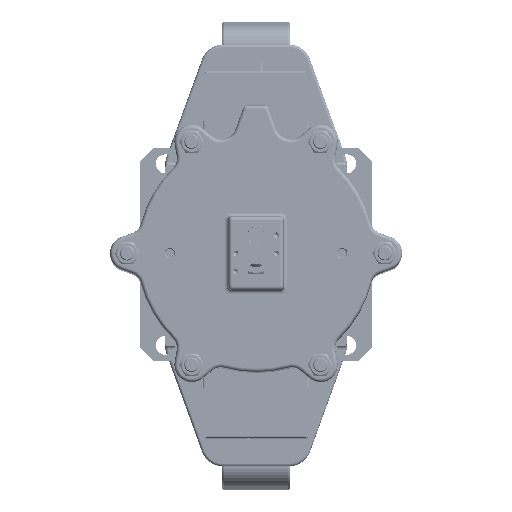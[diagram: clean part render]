
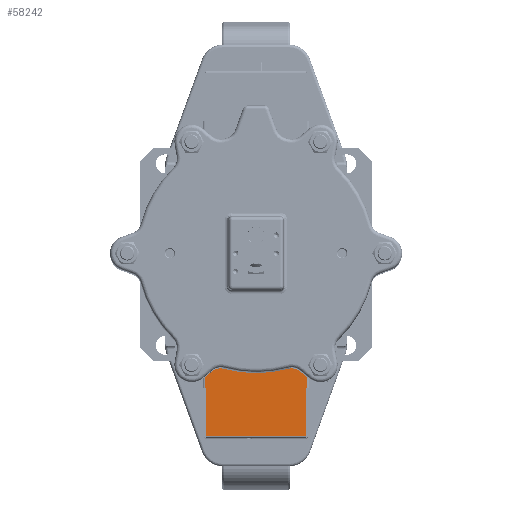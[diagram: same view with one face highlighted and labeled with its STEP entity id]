
A CAD part, top view. The second image highlights one B-rep face of the part: STEP entity #58242.
In plain terms, the highlighted planar face has unit normal (0, 0, 1).
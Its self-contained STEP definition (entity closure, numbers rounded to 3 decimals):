
#4664=LINE('',#103255,#7838);
#4672=LINE('',#103283,#7846);
#4675=LINE('',#103289,#7849);
#4687=LINE('',#103312,#7861);
#4688=LINE('',#103314,#7862);
#4689=LINE('',#103316,#7863);
#4690=LINE('',#103318,#7864);
#4691=LINE('',#103320,#7865);
#4692=LINE('',#103322,#7866);
#4693=LINE('',#103324,#7867);
#4694=LINE('',#103325,#7868);
#4695=LINE('',#103326,#7869);
#7838=VECTOR('',#75609,10.);
#7846=VECTOR('',#75637,10.);
#7849=VECTOR('',#75644,10.);
#7861=VECTOR('',#75660,10.);
#7862=VECTOR('',#75661,10.);
#7863=VECTOR('',#75662,10.);
#7864=VECTOR('',#75663,10.);
#7865=VECTOR('',#75664,10.);
#7866=VECTOR('',#75665,10.);
#7867=VECTOR('',#75666,10.);
#7868=VECTOR('',#75667,10.);
#7869=VECTOR('',#75668,10.);
#10361=PLANE('',#63631);
#12589=FACE_OUTER_BOUND('',#16440,.T.);
#16440=EDGE_LOOP('',(#45269,#45270,#45271,#45272,#45273,#45274,#45275,#45276,
#45277,#45278,#45279,#45280));
#26068=VERTEX_POINT('',#103238);
#26072=VERTEX_POINT('',#103251);
#26076=VERTEX_POINT('',#103265);
#26079=VERTEX_POINT('',#103273);
#26083=VERTEX_POINT('',#103288);
#26092=VERTEX_POINT('',#103311);
#26093=VERTEX_POINT('',#103313);
#26094=VERTEX_POINT('',#103315);
#26095=VERTEX_POINT('',#103317);
#26096=VERTEX_POINT('',#103319);
#26097=VERTEX_POINT('',#103321);
#26098=VERTEX_POINT('',#103323);
#32984=EDGE_CURVE('',#26072,#26068,#4664,.T.);
#32998=EDGE_CURVE('',#26079,#26076,#4672,.T.);
#33001=EDGE_CURVE('',#26083,#26079,#4675,.T.);
#33013=EDGE_CURVE('',#26076,#26092,#4687,.T.);
#33014=EDGE_CURVE('',#26092,#26093,#4688,.T.);
#33015=EDGE_CURVE('',#26093,#26094,#4689,.T.);
#33016=EDGE_CURVE('',#26095,#26094,#4690,.T.);
#33017=EDGE_CURVE('',#26096,#26095,#4691,.T.);
#33018=EDGE_CURVE('',#26096,#26097,#4692,.T.);
#33019=EDGE_CURVE('',#26098,#26097,#4693,.T.);
#33020=EDGE_CURVE('',#26068,#26098,#4694,.T.);
#33021=EDGE_CURVE('',#26072,#26083,#4695,.T.);
#45269=ORIENTED_EDGE('',*,*,#32998,.T.);
#45270=ORIENTED_EDGE('',*,*,#33013,.T.);
#45271=ORIENTED_EDGE('',*,*,#33014,.T.);
#45272=ORIENTED_EDGE('',*,*,#33015,.T.);
#45273=ORIENTED_EDGE('',*,*,#33016,.F.);
#45274=ORIENTED_EDGE('',*,*,#33017,.F.);
#45275=ORIENTED_EDGE('',*,*,#33018,.T.);
#45276=ORIENTED_EDGE('',*,*,#33019,.F.);
#45277=ORIENTED_EDGE('',*,*,#33020,.F.);
#45278=ORIENTED_EDGE('',*,*,#32984,.F.);
#45279=ORIENTED_EDGE('',*,*,#33021,.T.);
#45280=ORIENTED_EDGE('',*,*,#33001,.T.);
#58242=ADVANCED_FACE('',(#12589),#10361,.F.);
#63631=AXIS2_PLACEMENT_3D('',#103310,#75658,#75659);
#75609=DIRECTION('',(-1.,0.,0.));
#75637=DIRECTION('',(0.,1.,0.));
#75644=DIRECTION('',(1.,0.,0.));
#75658=DIRECTION('center_axis',(0.,0.,
-1.));
#75659=DIRECTION('ref_axis',(1.,0.,0.));
#75660=DIRECTION('',(-1.,0.,0.));
#75661=DIRECTION('',(0.,1.,0.));
#75662=DIRECTION('',(-1.,0.,0.));
#75663=DIRECTION('',(0.,1.,0.));
#75664=DIRECTION('',(1.,0.,0.));
#75665=DIRECTION('',(0.,-1.,0.));
#75666=DIRECTION('',(-1.,0.,0.));
#75667=DIRECTION('',(0.,1.,0.));
#75668=DIRECTION('',(0.,1.,0.));
#103238=CARTESIAN_POINT('',(-55.5,-200.,913.5));
#103251=CARTESIAN_POINT('',(55.5,-200.,913.5));
#103255=CARTESIAN_POINT('',(0.,-200.,913.5));
#103265=CARTESIAN_POINT('',(56.5,-132.,913.5));
#103273=CARTESIAN_POINT('',(56.5,-147.,913.5));
#103283=CARTESIAN_POINT('',(56.5,-149.556,913.5));
#103288=CARTESIAN_POINT('',(55.5,-147.,913.5));
#103289=CARTESIAN_POINT('',(55.5,-147.,913.5));
#103310=CARTESIAN_POINT('Origin',(-32.057,-152.111,913.5));
#103311=CARTESIAN_POINT('',(55.5,-132.,913.5));
#103312=CARTESIAN_POINT('',(71.85,-132.,913.5));
#103313=CARTESIAN_POINT('',(55.5,-107.,913.5));
#103314=CARTESIAN_POINT('',(55.5,-132.,913.5));
#103315=CARTESIAN_POINT('',(-55.5,-107.,913.5));
#103316=CARTESIAN_POINT('',(55.5,-107.,913.5));
#103317=CARTESIAN_POINT('',(-55.5,-132.,913.5));
#103318=CARTESIAN_POINT('',(-55.5,-132.,913.5));
#103319=CARTESIAN_POINT('',(-56.5,-132.,913.5));
#103320=CARTESIAN_POINT('',(-71.85,-132.,913.5));
#103321=CARTESIAN_POINT('',(-56.5,-147.,913.5));
#103322=CARTESIAN_POINT('',(-56.5,-142.056,913.5));
#103323=CARTESIAN_POINT('',(-55.5,-147.,913.5));
#103324=CARTESIAN_POINT('',(-55.5,-147.,913.5));
#103325=CARTESIAN_POINT('',(-55.5,-200.,913.5));
#103326=CARTESIAN_POINT('',(55.5,-200.,913.5));
